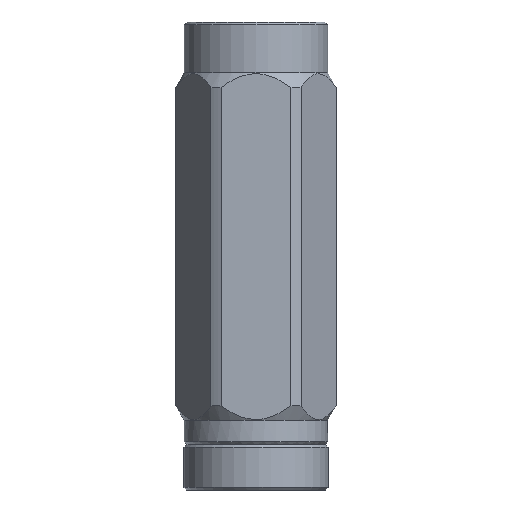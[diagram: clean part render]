
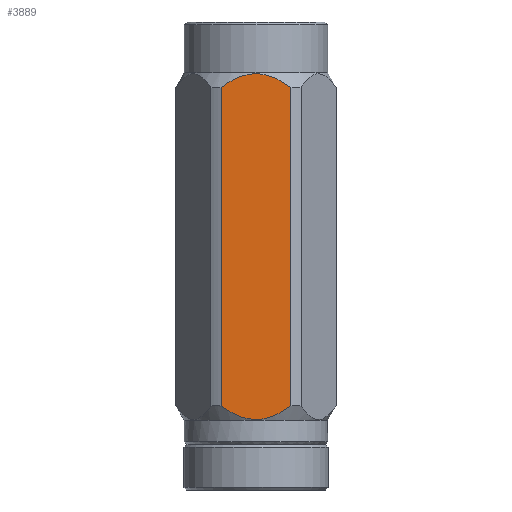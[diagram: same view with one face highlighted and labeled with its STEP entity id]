
A CAD part, left-side view. The second image highlights one B-rep face of the part: STEP entity #3889.
In plain terms, the highlighted planar face has unit normal (-1, 0, 0).
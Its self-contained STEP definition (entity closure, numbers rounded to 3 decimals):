
#25=LINE('',#5361,#114);
#26=LINE('',#5374,#115);
#114=VECTOR('',#4509,1000.);
#115=VECTOR('',#4514,1000.);
#216=B_SPLINE_CURVE_WITH_KNOTS('',3,(#5365,#5366,#5367,#5368,#5369,#5370,
#5371,#5372),.UNSPECIFIED.,.F.,.F.,(4,1,1,1,1,4),(0.026,0.03,
0.032,0.033,0.037,0.041),
 .UNSPECIFIED.);
#217=B_SPLINE_CURVE_WITH_KNOTS('',3,(#5376,#5377,#5378,#5379,#5380,#5381,
#5382,#5383),.UNSPECIFIED.,.F.,.F.,(4,1,1,1,1,4),(0.025,0.029,
0.031,0.033,0.036,0.04),
 .UNSPECIFIED.);
#362=PLANE('',#4118);
#535=ORIENTED_EDGE('',*,*,#1160,.T.);
#536=ORIENTED_EDGE('',*,*,#1162,.T.);
#537=ORIENTED_EDGE('',*,*,#1163,.T.);
#538=ORIENTED_EDGE('',*,*,#1164,.T.);
#1160=EDGE_CURVE('',#1490,#1489,#25,.F.);
#1162=EDGE_CURVE('',#1489,#1491,#216,.F.);
#1163=EDGE_CURVE('',#1491,#1492,#26,.T.);
#1164=EDGE_CURVE('',#1492,#1490,#217,.T.);
#1489=VERTEX_POINT('',#5360);
#1490=VERTEX_POINT('',#5362);
#1491=VERTEX_POINT('',#5373);
#1492=VERTEX_POINT('',#5375);
#1899=EDGE_LOOP('',(#535,#536,#537,#538));
#2229=FACE_BOUND('',#1899,.T.);
#3889=ADVANCED_FACE('',(#2229),#362,.F.);
#4118=AXIS2_PLACEMENT_3D('',#5364,#4512,#4513);
#4509=DIRECTION('',(0.,0.,1.));
#4512=DIRECTION('',(1.,0.,0.));
#4513=DIRECTION('',(0.,1.,0.));
#4514=DIRECTION('',(0.,0.,1.));
#5360=CARTESIAN_POINT('',(-13.5,6.538,7.271));
#5361=CARTESIAN_POINT('',(-13.5,6.538,-41.799));
#5362=CARTESIAN_POINT('',(-13.5,6.538,66.729));
#5364=CARTESIAN_POINT('',(-13.5,7.794,79.));
#5365=CARTESIAN_POINT('',(-13.5,-6.538,7.271));
#5366=CARTESIAN_POINT('',(-13.5,-5.588,6.554));
#5367=CARTESIAN_POINT('',(-13.5,-4.042,5.575));
#5368=CARTESIAN_POINT('',(-13.5,-1.783,4.812));
#5369=CARTESIAN_POINT('',(-13.5,0.62,4.531));
#5370=CARTESIAN_POINT('',(-13.5,3.562,5.259));
#5371=CARTESIAN_POINT('',(-13.5,5.593,6.558));
#5372=CARTESIAN_POINT('',(-13.5,6.538,7.271));
#5373=CARTESIAN_POINT('',(-13.5,-6.538,7.271));
#5374=CARTESIAN_POINT('',(-13.5,-6.538,-41.799));
#5375=CARTESIAN_POINT('',(-13.5,-6.538,66.729));
#5376=CARTESIAN_POINT('',(-13.5,-6.538,66.729));
#5377=CARTESIAN_POINT('',(-13.5,-5.588,67.446));
#5378=CARTESIAN_POINT('',(-13.5,-4.042,68.425));
#5379=CARTESIAN_POINT('',(-13.5,-1.783,69.188));
#5380=CARTESIAN_POINT('',(-13.5,0.62,69.469));
#5381=CARTESIAN_POINT('',(-13.5,3.562,68.741));
#5382=CARTESIAN_POINT('',(-13.5,5.593,67.442));
#5383=CARTESIAN_POINT('',(-13.5,6.538,66.729));
